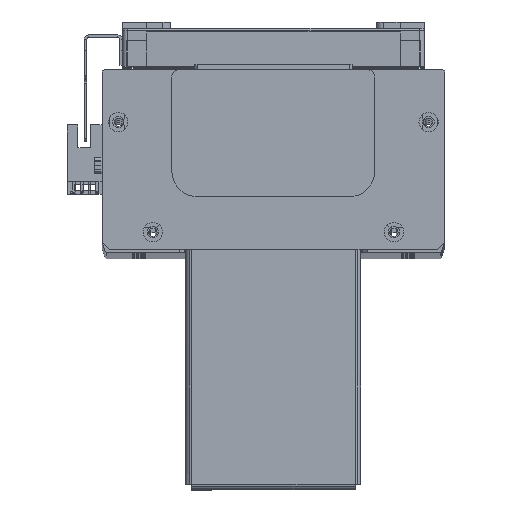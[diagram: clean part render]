
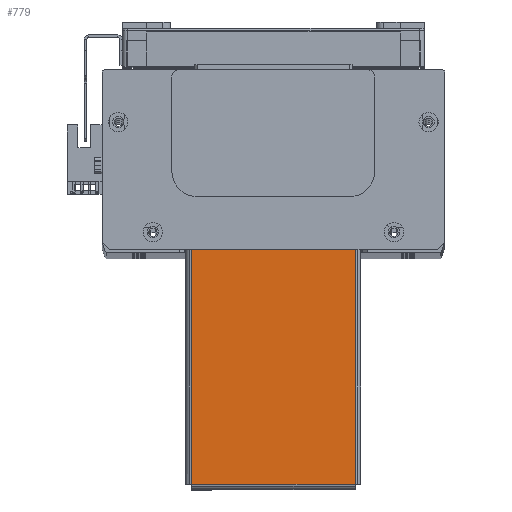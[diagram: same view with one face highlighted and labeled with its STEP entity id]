
A CAD part, top view. The second image highlights one B-rep face of the part: STEP entity #779.
In plain terms, the highlighted planar face has unit normal (0, 0, 1) as drawn and (0, -1, 0) by its records, which use the part's own axes.
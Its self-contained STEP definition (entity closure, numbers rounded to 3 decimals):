
#779 = ADVANCED_FACE ( 'NONE', ( #4526 ), #12071, .F. ) ;
#4526 = FACE_OUTER_BOUND ( 'NONE', #63025, .T. ) ;
#6934 = AXIS2_PLACEMENT_3D ( 'NONE', #12078, #12074, #12076 ) ;
#12071 = PLANE ( 'NONE',  #6934 ) ;
#12074 = DIRECTION ( 'NONE',  ( 0., 1., 0. ) ) ;
#12076 = DIRECTION ( 'NONE',  ( 0., 0., 1. ) ) ;
#12078 = CARTESIAN_POINT ( 'NONE',  ( 0., -1.5, 0. ) ) ;
#15286 = CARTESIAN_POINT ( 'NONE',  ( -94.763, -1.5, -32.263 ) ) ;
#15346 = CARTESIAN_POINT ( 'NONE',  ( -94.763, -1.5, 32.263 ) ) ;
#15384 = CARTESIAN_POINT ( 'NONE',  ( -2., -1.5, 32.263 ) ) ;
#15391 = CARTESIAN_POINT ( 'NONE',  ( -2., -1.5, -32.263 ) ) ;
#39440 = VECTOR ( 'NONE', #61169, 1000. ) ;
#39493 = LINE ( 'NONE', #61118, #39440 ) ;
#39509 = VECTOR ( 'NONE', #61394, 1000. ) ;
#39519 = VECTOR ( 'NONE', #61296, 1000. ) ;
#39545 = LINE ( 'NONE', #61274, #39519 ) ;
#39556 = LINE ( 'NONE', #61388, #39509 ) ;
#39588 = VECTOR ( 'NONE', #49685, 1000. ) ;
#39613 = LINE ( 'NONE', #49677, #39588 ) ;
#42151 = VERTEX_POINT ( 'NONE', #15286 ) ;
#42685 = VERTEX_POINT ( 'NONE', #15391 ) ;
#42735 = VERTEX_POINT ( 'NONE', #15346 ) ;
#42745 = VERTEX_POINT ( 'NONE', #15384 ) ;
#48734 = ORIENTED_EDGE ( 'NONE', *, *, #63841, .T. ) ;
#48787 = ORIENTED_EDGE ( 'NONE', *, *, #63828, .F. ) ;
#48811 = ORIENTED_EDGE ( 'NONE', *, *, #63783, .T. ) ;
#49677 = CARTESIAN_POINT ( 'NONE',  ( 94.793, -1.5, 32.263 ) ) ;
#49685 = DIRECTION ( 'NONE',  ( -1., 0., 0. ) ) ;
#56119 = ORIENTED_EDGE ( 'NONE', *, *, #63813, .T. ) ;
#61118 = CARTESIAN_POINT ( 'NONE',  ( -94.763, -1.5, 32.293 ) ) ;
#61169 = DIRECTION ( 'NONE',  ( 0., 0., -1. ) ) ;
#61274 = CARTESIAN_POINT ( 'NONE',  ( -94.793, -1.5, -32.263 ) ) ;
#61296 = DIRECTION ( 'NONE',  ( 1., 0., 0. ) ) ;
#61388 = CARTESIAN_POINT ( 'NONE',  ( -2., -1.5, 34.5 ) ) ;
#61394 = DIRECTION ( 'NONE',  ( 0., 0., -1. ) ) ;
#63025 = EDGE_LOOP ( 'NONE', ( #56119, #48787, #48734, #48811 ) ) ;
#63783 = EDGE_CURVE ( 'NONE', #42735, #42151, #39493, .T. ) ;
#63813 = EDGE_CURVE ( 'NONE', #42151, #42685, #39545, .T. ) ;
#63828 = EDGE_CURVE ( 'NONE', #42745, #42685, #39556, .T. ) ;
#63841 = EDGE_CURVE ( 'NONE', #42745, #42735, #39613, .T. ) ;
